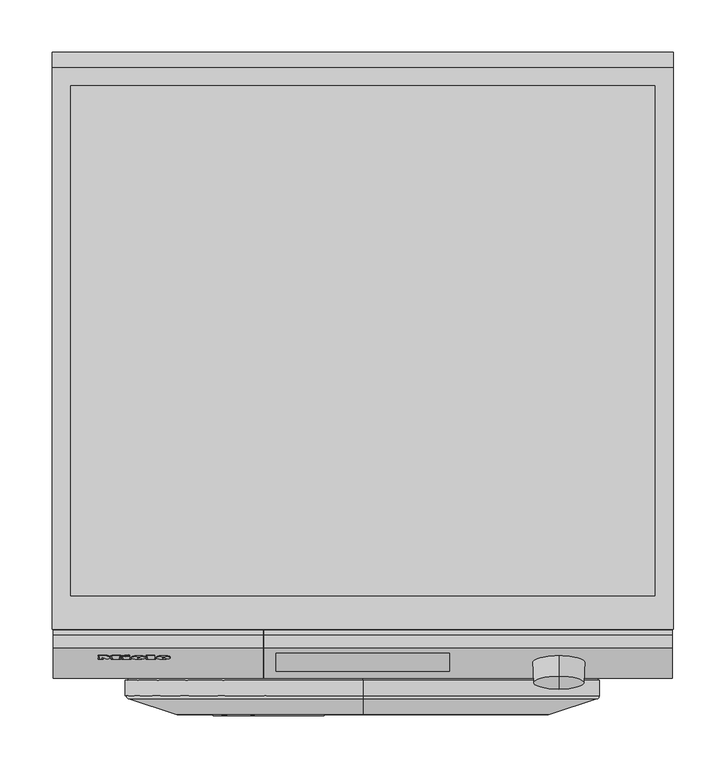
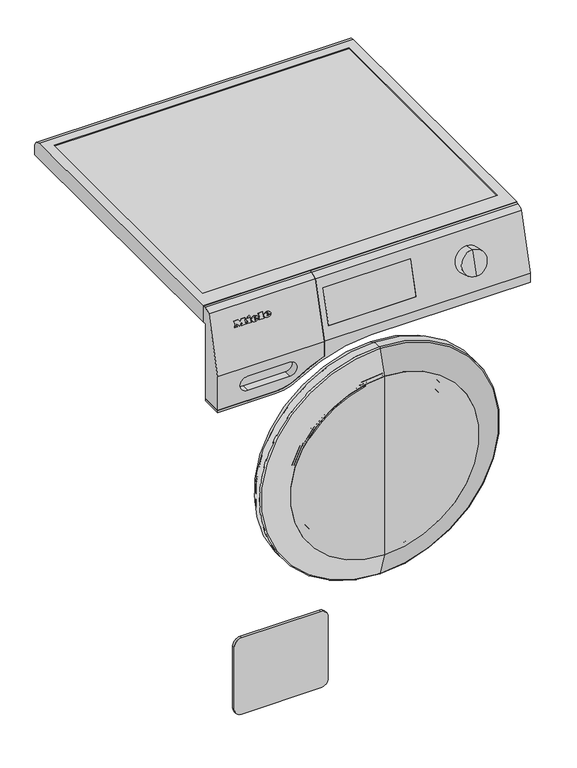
"""IFC4 building model written with IfcOpenShell, lengths in millimetres: proxy geometry, 12424710_NL_WEB395WPS_LW : 11EB3953_NL_12424710_WEB395WPS_LW."""

from ifc_helpers import new_model, si_unit, point, frame, frame_2d, origin, place, context, project, spatial, polyline, circle_curve, ellipse_curve, trimmed, segment, composite_curve, outline, extrude, source, transform, mapped, element, save
from ifc_brep_helpers import plane_surface, cylinder_surface, revolved_surface, extruded_surface, advanced_brep


def specialty_equipment_27e1f234(model_context):
    return source(origin(), model_context, "Body", "SolidModel", [
        extrude(outline(polyline([(0.0, 0.0), (0.0, -1.8582), (-7.9458, -1.8582), (-11.286, 2.4168), (-14.6148, -1.8582), (-21.5574, -1.8582), (-21.5574, 0.0), (-20.1096, 0.0), (-20.1096, 7.6266), (-21.5574, 7.6266), (-21.5574, 9.5418), (-12.4602, 9.5418), (-12.4602, 7.6266), (-13.8624, 7.6266), (-13.8624, 2.6015777), (-8.7438, 9.5418), (-3.648, 2.7988753), (-3.648, 7.6266), (-5.016, 7.6266), (-5.016, 9.5418), (0.0, 9.5418), (0.0, 7.6266), (-1.3794, 7.6266), (-1.3794, 0.0), (0.0, 0.0)])), frame((-254.0, -578.2806922, 817.2814843), z_axis=(0.0, -0.9659258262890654, 0.2588190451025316), x_axis=(-1.0, 0.0, 0.0)), (0.0, 0.0, 1.0), 1.0),
        extrude(outline(polyline([(0.0, 0.0), (-0.0155448, -4.2740444), (-2.0506341, -4.2637237), (-2.0399312, 0.0), (0.0, 0.0)])), frame((-228.464, -577.9348294, 818.5722618), z_axis=(0.0, -0.9659258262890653, 0.2588190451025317), x_axis=(-0.4247202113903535, 0.23431526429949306, 0.8744764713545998)), (0.0, 0.0, 1.0), 1.0),
        extrude(outline(polyline([(-0.7030818, 3.4401063), (-3.9616202, -3.5057256), (-10.0405132, -0.6538993), (-10.6021632, -1.8511006), (-12.336041, -1.0376764), (-8.5158526, 7.1053568), (-6.7819748, 6.2919326), (-7.3581502, 5.0637692), (-3.1266627, 3.0786269), (-2.5504873, 4.3067903), (-0.7030818, 3.4401063)])), frame((-228.464, -577.9348294, 818.5722618), z_axis=(0.0, -0.9659258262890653, 0.2588190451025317), x_axis=(-0.4247202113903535, 0.23431526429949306, 0.8744764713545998)), (0.0, 0.0, 1.0), 1.0),
        extrude(outline(polyline([(0.0, 0.0), (0.0, -1.8582), (-7.8432, -1.8582), (-7.8432, 7.6266), (-9.2454, 7.6266), (-9.2454, 9.5418), (0.0, 9.5418), (0.0, 7.6266), (-1.368, 7.6266), (-1.368, 0.0), (0.0, 0.0)])), frame((-207.7388, -578.2806922, 817.2814843), z_axis=(0.0, -0.9659258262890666, 0.2588190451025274), x_axis=(-1.0, 0.0, 0.0)), (0.0, 0.0, 1.0), 1.0),
        advanced_brep(
        [(-216.0038, -581.029736, 810.8856165), (-216.0038, -580.7317318, 811.9977835), (-208.3772, -580.7317318, 811.9977835), (-221.6468, -580.7317318, 811.9977835), (-218.5118, -581.7290133, 808.2758781), (-208.571, -581.029736, 810.8856165), (-212.0138, -581.029736, 810.8856165), (-214.727, -581.3601962, 809.6523224), (-216.0038, -580.354063, 813.4072624), (-216.0038, -580.0324545, 814.6075219), (-214.0544, -580.0324545, 814.6075219), (-214.0544, -580.354063, 813.4072624), (-216.0038, -580.0638102, 810.6267974), (-214.727, -580.3942704, 809.3935033), (-212.0138, -580.0638102, 810.6267974), (-208.571, -580.0638102, 810.6267974), (-218.5118, -580.7630875, 808.017059), (-221.6468, -579.765806, 811.7389644), (-208.3772, -579.765806, 811.7389644), (-216.0038, -579.765806, 811.7389644), (-216.0038, -579.3881372, 813.1484434), (-214.0544, -579.3881372, 813.1484434), (-214.0544, -579.0665287, 814.3487028), (-216.0038, -579.0665287, 814.3487028)],
        [
            (0, 1),
            (1, 2),
            (2, 3, ellipse_curve(frame((-215.012, -580.7317318, 811.9977835), z_axis=(0.0, -0.9659258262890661, 0.2588190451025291), x_axis=(-1.0, 0.0, 0.0)), 6.6348, 5.4834)),
            (3, 4, circle_curve(frame((-217.2349378, -580.6314135, 812.3721763), z_axis=(0.0, -0.9659258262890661, 0.2588190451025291), x_axis=(0.0, -0.2588190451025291, -0.9659258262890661)), 4.4288556)),
            (4, 5, circle_curve(frame((-215.1448192, -579.8524717, 815.2792267), z_axis=(0.0, -0.9659258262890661, 0.2588190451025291), x_axis=(0.0, -0.2588190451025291, -0.9659258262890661)), 7.9940516)),
            (5, 6),
            (6, 7, circle_curve(frame((-214.1697412, -580.7553361, 811.909691), z_axis=(0.0, 0.9659258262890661, -0.2588190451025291), x_axis=(0.0, -0.2588190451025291, -0.9659258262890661)), 2.4025208)),
            (7, 0, circle_curve(frame((-214.727, -581.029736, 810.8856165), z_axis=(0.0, 0.9659258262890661, -0.2588190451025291), x_axis=(0.0, -0.2588190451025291, -0.9659258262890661)), 1.2768)),
            (8, 9),
            (9, 10, circle_curve(frame((-215.0291, -580.0324545, 814.6075219), z_axis=(0.0, 0.9659258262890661, -0.2588190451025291), x_axis=(0.0, -0.2588190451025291, -0.9659258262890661)), 0.9747)),
            (10, 11),
            (11, 8),
            (12, 13, circle_curve(frame((-214.727, -580.0638102, 810.6267974), z_axis=(0.0, -0.9659258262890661, 0.2588190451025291), x_axis=(0.0, -0.2588190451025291, -0.9659258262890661)), 1.2768)),
            (13, 14, circle_curve(frame((-214.1697412, -579.7894103, 811.650872), z_axis=(0.0, -0.9659258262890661, 0.2588190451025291), x_axis=(0.0, -0.2588190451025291, -0.9659258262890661)), 2.4025208)),
            (14, 15),
            (15, 16, circle_curve(frame((-215.1448192, -578.8865459, 815.0204076), z_axis=(0.0, 0.9659258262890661, -0.2588190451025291), x_axis=(0.0, -0.2588190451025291, -0.9659258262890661)), 7.9940516)),
            (16, 17, circle_curve(frame((-217.2349378, -579.6654877, 812.1133573), z_axis=(0.0, 0.9659258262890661, -0.2588190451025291), x_axis=(0.0, -0.2588190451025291, -0.9659258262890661)), 4.4288556)),
            (17, 18, ellipse_curve(frame((-215.012, -579.765806, 811.7389644), z_axis=(0.0, 0.9659258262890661, -0.2588190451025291), x_axis=(-1.0, 0.0, 0.0)), 6.6348, 5.4834)),
            (18, 19),
            (19, 12),
            (20, 21),
            (21, 22),
            (22, 23, circle_curve(frame((-215.0291, -579.0665287, 814.3487028), z_axis=(0.0, -0.9659258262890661, 0.2588190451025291), x_axis=(0.0, -0.2588190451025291, -0.9659258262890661)), 0.9747)),
            (23, 20),
            (0, 12),
            (19, 1),
            (18, 2),
            (5, 15),
            (14, 6),
            (17, 3),
            (13, 7),
            (16, 4),
            (8, 20),
            (23, 9),
            (22, 10),
            (21, 11),
        ],
        [
            plane_surface(frame((-216.0038, -580.7317318, 811.9977835), z_axis=(0.0, -0.9659258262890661, 0.2588190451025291), x_axis=(0.0, 0.2588190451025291, 0.9659258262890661))),
            plane_surface(frame((-216.0038, -579.765806, 811.7389644), z_axis=(0.0, 0.9659258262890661, -0.2588190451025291), x_axis=(0.0, -0.2588190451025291, -0.9659258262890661))),
            plane_surface(frame((-216.0038, -581.029736, 810.8856165), z_axis=(1.0, 0.0, 0.0), x_axis=(0.0, 0.9659258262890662, -0.25881904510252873))),
            plane_surface(frame((-216.0038, -580.7317318, 811.9977835), z_axis=(0.0, -0.25881904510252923, -0.9659258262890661), x_axis=(0.0, 0.9659258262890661, -0.25881904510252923))),
            plane_surface(frame((-208.571, -581.029736, 810.8856165), z_axis=(0.0, 0.25881904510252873, 0.9659258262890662), x_axis=(0.0, 0.9659258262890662, -0.25881904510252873))),
            extruded_surface(trimmed(ellipse_curve(frame((-215.012, -578.7998801, 811.4801454), z_axis=(0.0, -0.9659258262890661, 0.2588190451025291), x_axis=(-1.0, 0.0, 0.0)), 6.6348, 5.4834), [point((-208.3772, -578.7998801, 811.4801454))], [point((-221.6468, -578.7998801, 811.4801454))], True, "CARTESIAN"), (0.0, -0.965925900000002, 0.2588190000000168), 1.0000000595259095),
            revolved_surface(polyline([(-214.1697412, -580.4112283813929, 809.3302150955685), (-214.1697412, -581.3771542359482, 809.589034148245)]), (-214.1697412, -579.7894103, 811.650872), (0.0, 0.9659258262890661, -0.2588190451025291)),
            revolved_surface(polyline([(-214.727, -580.3942703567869, 809.393503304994), (-214.727, -581.3601962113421, 809.6523223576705)]), (-214.727, -580.0638102, 810.6267974), (0.0, 0.9659258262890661, -0.2588190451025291)),
            cylinder_surface(frame((-217.2349378, -579.6654877, 812.1133573), z_axis=(0.0, -0.9659258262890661, 0.2588190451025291), x_axis=(0.0, -0.2588190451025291, -0.9659258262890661)), 4.4288556),
            cylinder_surface(frame((-215.1448192, -578.8865459, 815.0204076), z_axis=(0.0, -0.9659258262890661, 0.2588190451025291), x_axis=(0.0, -0.2588190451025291, -0.9659258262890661)), 7.9940516),
            plane_surface(frame((-216.0038, -580.354063, 813.4072624), z_axis=(1.0, 0.0, 0.0), x_axis=(0.0, 0.9659258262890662, -0.25881904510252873))),
            revolved_surface(polyline([(-215.0291, -579.3187996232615, 813.407214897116), (-215.0291, -580.2847254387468, 813.6660339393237)]), (-215.0291, -579.0665287, 814.3487028), (0.0, 0.9659258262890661, -0.2588190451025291)),
            plane_surface(frame((-214.0544, -580.0324545, 814.6075219), z_axis=(-1.0, 0.0, 0.0), x_axis=(0.0, 0.9659258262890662, -0.25881904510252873))),
            plane_surface(frame((-214.0544, -580.354063, 813.4072624), z_axis=(0.0, 0.25881904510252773, 0.9659258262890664), x_axis=(0.0, 0.9659258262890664, -0.25881904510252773))),
        ],
        [
            (0, [[1, 2, 3, 4, 5, 6, 7, 8], [9, 10, 11, 12]]),
            (1, [[13, 14, 15, 16, 17, 18, 19, 20], [21, 22, 23, 24]]),
            (2, [[-1, 25, -20, 26]]),
            (3, [[-2, -26, -19, 27]]),
            (4, [[-6, 28, -15, 29]]),
            (5, [[-3, -27, -18, 30]]),
            (6, [[-7, -29, -14, 31]]),
            (7, [[-8, -31, -13, -25]]),
            (8, [[-4, -30, -17, 32]]),
            (9, [[-5, -32, -16, -28]]),
            (10, [[-9, 33, -24, 34]]),
            (11, [[-10, -34, -23, 35]]),
            (12, [[-11, -35, -22, 36]]),
            (13, [[-12, -36, -21, -33]]),
        ],
    ),
        advanced_brep(
        [(-192.212, -581.029736, 810.8856165), (-192.212, -580.7317318, 811.9977835), (-184.5854, -580.7317318, 811.9977835), (-197.855, -580.7317318, 811.9977835), (-194.72, -581.7290133, 808.2758781), (-184.7792, -581.029736, 810.8856165), (-188.222, -581.029736, 810.8856165), (-190.9352, -581.3601962, 809.6523224), (-192.212, -580.354063, 813.4072624), (-192.212, -580.0324545, 814.6075219), (-190.2626, -580.0324545, 814.6075219), (-190.2626, -580.354063, 813.4072624), (-192.212, -580.0638102, 810.6267974), (-190.9352, -580.3942704, 809.3935033), (-188.222, -580.0638102, 810.6267974), (-184.7792, -580.0638102, 810.6267974), (-194.72, -580.7630875, 808.017059), (-197.855, -579.765806, 811.7389644), (-184.5854, -579.765806, 811.7389644), (-192.212, -579.765806, 811.7389644), (-192.212, -579.3881372, 813.1484434), (-190.2626, -579.3881372, 813.1484434), (-190.2626, -579.0665287, 814.3487028), (-192.212, -579.0665287, 814.3487028)],
        [
            (0, 1),
            (1, 2),
            (2, 3, ellipse_curve(frame((-191.2202, -580.7317318, 811.9977835), z_axis=(0.0, -0.965925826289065, 0.25881904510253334), x_axis=(-1.0, 0.0, 0.0)), 6.6348, 5.4834)),
            (3, 4, circle_curve(frame((-193.4431378, -580.6314135, 812.3721763), z_axis=(0.0, -0.9659258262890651, 0.25881904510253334), x_axis=(0.0, -0.2588190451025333, -0.9659258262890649)), 4.4288556)),
            (4, 5, circle_curve(frame((-191.3530192, -579.8524717, 815.2792267), z_axis=(0.0, -0.9659258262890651, 0.25881904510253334), x_axis=(0.0, -0.2588190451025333, -0.9659258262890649)), 7.9940516)),
            (5, 6),
            (6, 7, circle_curve(frame((-190.3779412, -580.7553361, 811.909691), z_axis=(0.0, 0.9659258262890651, -0.25881904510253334), x_axis=(0.0, -0.2588190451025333, -0.9659258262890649)), 2.4025208)),
            (7, 0, circle_curve(frame((-190.9352, -581.029736, 810.8856165), z_axis=(0.0, 0.9659258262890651, -0.25881904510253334), x_axis=(0.0, -0.2588190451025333, -0.9659258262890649)), 1.2768)),
            (8, 9),
            (9, 10, circle_curve(frame((-191.2373, -580.0324545, 814.6075219), z_axis=(0.0, 0.9659258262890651, -0.25881904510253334), x_axis=(0.0, -0.2588190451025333, -0.9659258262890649)), 0.9747)),
            (10, 11),
            (11, 8),
            (12, 13, circle_curve(frame((-190.9352, -580.0638102, 810.6267974), z_axis=(0.0, -0.9659258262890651, 0.25881904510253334), x_axis=(0.0, -0.2588190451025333, -0.9659258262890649)), 1.2768)),
            (13, 14, circle_curve(frame((-190.3779412, -579.7894103, 811.650872), z_axis=(0.0, -0.9659258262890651, 0.25881904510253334), x_axis=(0.0, -0.2588190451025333, -0.9659258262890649)), 2.4025208)),
            (14, 15),
            (15, 16, circle_curve(frame((-191.3530192, -578.8865459, 815.0204076), z_axis=(0.0, 0.9659258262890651, -0.25881904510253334), x_axis=(0.0, -0.2588190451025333, -0.9659258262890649)), 7.9940516)),
            (16, 17, circle_curve(frame((-193.4431378, -579.6654877, 812.1133573), z_axis=(0.0, 0.9659258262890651, -0.25881904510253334), x_axis=(0.0, -0.2588190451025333, -0.9659258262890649)), 4.4288556)),
            (17, 18, ellipse_curve(frame((-191.2202, -579.765806, 811.7389644), z_axis=(0.0, 0.965925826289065, -0.25881904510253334), x_axis=(-1.0, 0.0, 0.0)), 6.6348, 5.4834)),
            (18, 19),
            (19, 12),
            (20, 21),
            (21, 22),
            (22, 23, circle_curve(frame((-191.2373, -579.0665287, 814.3487028), z_axis=(0.0, -0.9659258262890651, 0.25881904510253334), x_axis=(0.0, -0.2588190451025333, -0.9659258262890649)), 0.9747)),
            (23, 20),
            (0, 12),
            (19, 1),
            (18, 2),
            (5, 15),
            (14, 6),
            (17, 3),
            (13, 7),
            (16, 4),
            (8, 20),
            (23, 9),
            (22, 10),
            (21, 11),
        ],
        [
            plane_surface(frame((-192.212, -580.7317318, 811.9977835), z_axis=(0.0, -0.965925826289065, 0.25881904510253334), x_axis=(0.0, 0.25881904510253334, 0.965925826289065))),
            plane_surface(frame((-192.212, -579.765806, 811.7389644), z_axis=(0.0, 0.965925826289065, -0.25881904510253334), x_axis=(0.0, -0.25881904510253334, -0.965925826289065))),
            plane_surface(frame((-192.212, -581.029736, 810.8856165), z_axis=(1.0, 0.0, 0.0), x_axis=(0.0, 0.9659258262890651, -0.2588190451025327))),
            plane_surface(frame((-192.212, -580.7317318, 811.9977835), z_axis=(0.0, -0.25881904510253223, -0.9659258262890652), x_axis=(0.0, 0.9659258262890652, -0.25881904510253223))),
            plane_surface(frame((-184.7792, -581.029736, 810.8856165), z_axis=(0.0, 0.2588190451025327, 0.9659258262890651), x_axis=(0.0, 0.9659258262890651, -0.2588190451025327))),
            extruded_surface(trimmed(ellipse_curve(frame((-191.2202, -578.7998801, 811.4801454), z_axis=(0.0, -0.965925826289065, 0.25881904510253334), x_axis=(-1.0, 0.0, 0.0)), 6.6348, 5.4834), [point((-184.5854, -578.7998801, 811.4801454))], [point((-197.855, -578.7998801, 811.4801454))], True, "CARTESIAN"), (0.0, -0.965925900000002, 0.2588190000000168), 1.0000000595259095),
            revolved_surface(polyline([(-190.3779412, -580.4112283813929, 809.3302150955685), (-190.3779412, -581.3771542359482, 809.589034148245)]), (-190.3779412, -579.7894103, 811.650872), (0.0, 0.9659258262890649, -0.2588190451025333)),
            revolved_surface(polyline([(-190.9352, -580.3942703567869, 809.393503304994), (-190.9352, -581.3601962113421, 809.6523223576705)]), (-190.9352, -580.0638102, 810.6267974), (0.0, 0.9659258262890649, -0.2588190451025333)),
            cylinder_surface(frame((-193.4431378, -579.6654877, 812.1133573), z_axis=(0.0, -0.9659258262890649, 0.2588190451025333), x_axis=(0.0, -0.2588190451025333, -0.9659258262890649)), 4.4288556),
            cylinder_surface(frame((-191.3530192, -578.8865459, 815.0204076), z_axis=(0.0, -0.9659258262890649, 0.2588190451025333), x_axis=(0.0, -0.2588190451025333, -0.9659258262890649)), 7.9940516),
            plane_surface(frame((-192.212, -580.354063, 813.4072624), z_axis=(1.0, 0.0, 0.0), x_axis=(0.0, 0.9659258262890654, -0.25881904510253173))),
            revolved_surface(polyline([(-191.2373, -579.3187996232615, 813.407214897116), (-191.2373, -580.2847254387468, 813.6660339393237)]), (-191.2373, -579.0665287, 814.3487028), (0.0, 0.9659258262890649, -0.2588190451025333)),
            plane_surface(frame((-190.2626, -580.0324545, 814.6075219), z_axis=(-1.0, 0.0, 0.0), x_axis=(0.0, 0.9659258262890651, -0.2588190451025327))),
            plane_surface(frame((-190.2626, -580.354063, 813.4072624), z_axis=(0.0, 0.2588190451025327, 0.9659258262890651), x_axis=(0.0, 0.9659258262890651, -0.2588190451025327))),
        ],
        [
            (0, [[1, 2, 3, 4, 5, 6, 7, 8], [9, 10, 11, 12]]),
            (1, [[13, 14, 15, 16, 17, 18, 19, 20], [21, 22, 23, 24]]),
            (2, [[-1, 25, -20, 26]]),
            (3, [[-2, -26, -19, 27]]),
            (4, [[-6, 28, -15, 29]]),
            (5, [[-3, -27, -18, 30]]),
            (6, [[-7, -29, -14, 31]]),
            (7, [[-8, -31, -13, -25]]),
            (8, [[-4, -30, -17, 32]]),
            (9, [[-5, -32, -16, -28]]),
            (10, [[-9, 33, -24, 34]]),
            (11, [[-10, -34, -23, 35]]),
            (12, [[-11, -35, -22, 36]]),
            (13, [[-12, -36, -21, -33]]),
        ],
    ),
        extrude(outline(composite_curve([segment(trimmed(circle_curve(frame_2d((475.0, 0.0)), 179.0077488), [point((650.0572384, -37.3996979))], [point((581.8669772, -143.6078804))], False, "CARTESIAN"), True, "CONTINUOUS"), segment(polyline([(581.8669772, -143.6078804), (580.6729844, -142.0033925)]), True, "CONTINUOUS"), segment(trimmed(circle_curve(frame_2d((475.0, 0.0)), 177.0077488), [point((580.6729844, -142.0033925))], [point((648.1013763, -36.9818423))], True, "CARTESIAN"), True, "CONTINUOUS"), segment(polyline([(648.1013763, -36.9818423), (650.0572384, -37.3996979)]), True, "CONTINUOUS")], self_intersect=False)), frame((0.0, -636.0, 0.0), z_axis=(0.0, 1.0, 0.0), x_axis=(0.0, 0.0, 1.0)), (0.0, 0.0, 1.0), 1.0),
        advanced_brep(
        [(0.0, -610.8709778, 313.0), (0.0, -610.8709778, 637.0), (0.0, -592.0, 637.0), (0.0, -592.0, 313.0), (0.0, -628.93239, 652.7005461), (0.0, -628.93239, 297.2994539), (0.0, -630.9005671, 650.4364173), (0.0, -630.9005671, 299.5635827), (0.0, -592.0, 326.0), (0.0, -592.0, 624.0), (0.0, -589.0, 326.0), (0.0, -589.0, 624.0), (0.0, -589.0, 475.0), (0.0, -635.0, 296.0), (0.0, -635.0, 654.0), (0.0, -635.0, 475.0)],
        [
            (0, 1, circle_curve(frame((0.0, -610.8709778, 475.0), z_axis=(0.0, 1.0, 0.0), x_axis=(0.0, 0.0, 1.0)), 162.0)),
            (1, 2),
            (2, 3, circle_curve(frame((0.0, -592.0, 475.0), z_axis=(0.0, -1.0, 0.0), x_axis=(0.0, 0.0, 1.0)), 162.0)),
            (3, 0),
            (4, 5, circle_curve(frame((0.0, -628.93239, 475.0), z_axis=(0.0, 1.0, 0.0), x_axis=(0.0, 0.0, 1.0)), 177.7005461)),
            (5, 0),
            (0, 1, circle_curve(frame((0.0, -610.8709778, 475.0), z_axis=(0.0, -1.0, 0.0), x_axis=(0.0, 0.0, 1.0)), 162.0)),
            (1, 4),
            (6, 7, circle_curve(frame((0.0, -630.9005671, 475.0), z_axis=(0.0, 1.0, 0.0), x_axis=(0.0, 0.0, 1.0)), 175.4364173)),
            (7, 5),
            (4, 6),
            (2, 3, circle_curve(frame((0.0, -592.0, 475.0), z_axis=(0.0, 1.0, 0.0), x_axis=(0.0, 0.0, 1.0)), 162.0)),
            (3, 8),
            (8, 9, circle_curve(frame((0.0, -592.0, 475.0), z_axis=(0.0, -1.0, 0.0), x_axis=(0.0, 0.0, 1.0)), 149.0)),
            (9, 2),
            (10, 11, circle_curve(frame((0.0, -589.0, 475.0), z_axis=(0.0, 1.0, 0.0), x_axis=(0.0, 0.0, 1.0)), 149.0)),
            (11, 12),
            (12, 10),
            (8, 9, circle_curve(frame((0.0, -592.0, 475.0), z_axis=(0.0, 1.0, 0.0), x_axis=(0.0, 0.0, 1.0)), 149.0)),
            (9, 11),
            (10, 8),
            (13, 14, circle_curve(frame((0.0, -635.0, 475.0), z_axis=(0.0, 1.0, 0.0), x_axis=(0.0, 0.0, 1.0)), 179.0)),
            (14, 6),
            (6, 7, circle_curve(frame((0.0, -630.9005671, 475.0), z_axis=(0.0, -1.0, 0.0), x_axis=(0.0, 0.0, 1.0)), 175.4364173)),
            (7, 13),
            (14, 13, circle_curve(frame((0.0, -635.0, 475.0), z_axis=(0.0, 1.0, 0.0), x_axis=(0.0, 0.0, 1.0)), 179.0)),
            (15, 14),
            (13, 15),
            (11, 10, circle_curve(frame((0.0, -589.0, 475.0), z_axis=(0.0, 1.0, 0.0), x_axis=(0.0, 0.0, 1.0)), 149.0)),
            (5, 4, circle_curve(frame((0.0, -628.93239, 475.0), z_axis=(0.0, 1.0, 0.0), x_axis=(0.0, 0.0, 1.0)), 177.7005461)),
        ],
        [
            cylinder_surface(frame((0.0, -2342.7556811, 475.0), z_axis=(0.0, -1.0, 0.0), x_axis=(0.0, 0.0, 1.0)), 162.0),
            revolved_surface(polyline([(0.0, -610.8709778, 637.0), (0.0, -628.93239, 652.7005461)]), (0.0, -2342.7556811, 475.0), (0.0, -1.0, 0.0)),
            revolved_surface(polyline([(0.0, -628.93239, 652.7005461), (0.0, -630.9005671, 650.4364173)]), (0.0, -2342.7556811, 475.0), (0.0, -1.0, 0.0)),
            plane_surface(frame((0.0, -592.0, 475.0), z_axis=(0.0, 1.0, 0.0), x_axis=(0.0, 0.0, 1.0))),
            plane_surface(frame((0.0, -589.0, 475.0), z_axis=(0.0, 1.0, 0.0), x_axis=(0.0, 0.0, 1.0))),
            cylinder_surface(frame((0.0, -2342.7556811, 475.0), z_axis=(0.0, -1.0, 0.0), x_axis=(0.0, 0.0, 1.0)), 149.0),
            revolved_surface(polyline([(0.0, -630.9005671, 650.4364173), (0.0, -635.0, 654.0)]), (0.0, -2342.7556811, 475.0), (0.0, -1.0, 0.0)),
            plane_surface(frame((0.0, -635.0, 475.0), z_axis=(0.0, -1.0, 0.0), x_axis=(0.0, 0.0, 1.0))),
        ],
        [
            (0, [[1, 2, 3, 4]]),
            (1, [[5, 6, 7, 8]]),
            (2, [[9, 10, -5, 11]]),
            (3, [[12, 13, 14, 15]]),
            (4, [[16, 17, 18]]),
            (5, [[19, 20, -16, 21]]),
            (6, [[22, 23, 24, 25]]),
            (6, [[26, -25, -9, -23]]),
            (7, [[27, -22, 28]]),
            (7, [[-28, -26, -27]]),
            (4, [[29, -18, -17]]),
            (5, [[-14, -21, -29, -20]]),
            (3, [[-3, -15, -19, -13]]),
            (0, [[-7, -4, -12, -2]]),
            (1, [[30, -8, -1, -6]]),
            (2, [[-24, -11, -30, -10]]),
        ],
    ),
        advanced_brep(
        [(0.0, -602.0, 313.0), (0.0, -602.0, 637.0), (0.0, -602.0, 702.0), (0.0, -602.0, 248.0), (0.0, -592.0, 326.0), (0.0, -592.0, 624.0), (0.0, -592.0, 637.0), (0.0, -592.0, 313.0), (0.0, -589.0, 326.0), (0.0, -589.0, 624.0), (0.0, -589.0, 254.0), (0.0, -589.0, 696.0)],
        [
            (0, 1, circle_curve(frame((0.0, -602.0, 475.0), z_axis=(0.0, 1.0, 0.0), x_axis=(0.0, 0.0, 1.0)), 162.0)),
            (1, 2),
            (2, 3, circle_curve(frame((0.0, -602.0, 475.0), z_axis=(0.0, -1.0, 0.0), x_axis=(0.0, 0.0, 1.0)), 227.0)),
            (3, 0),
            (4, 5, circle_curve(frame((0.0, -592.0, 475.0), z_axis=(0.0, 1.0, 0.0), x_axis=(0.0, 0.0, 1.0)), 149.0)),
            (5, 6),
            (6, 7, circle_curve(frame((0.0, -592.0, 475.0), z_axis=(0.0, -1.0, 0.0), x_axis=(0.0, 0.0, 1.0)), 162.0)),
            (7, 4),
            (5, 4, circle_curve(frame((0.0, -592.0, 475.0), z_axis=(0.0, 1.0, 0.0), x_axis=(0.0, 0.0, 1.0)), 149.0)),
            (7, 6, circle_curve(frame((0.0, -592.0, 475.0), z_axis=(0.0, -1.0, 0.0), x_axis=(0.0, 0.0, 1.0)), 162.0)),
            (8, 9, circle_curve(frame((0.0, -589.0, 475.0), z_axis=(0.0, 1.0, 0.0), x_axis=(0.0, 0.0, 1.0)), 149.0)),
            (9, 5),
            (4, 8),
            (2, 3, circle_curve(frame((0.0, -602.0, 475.0), z_axis=(0.0, 1.0, 0.0), x_axis=(0.0, 0.0, 1.0)), 227.0)),
            (3, 10),
            (10, 11, circle_curve(frame((0.0, -589.0, 475.0), z_axis=(0.0, -1.0, 0.0), x_axis=(0.0, 0.0, 1.0)), 221.0)),
            (11, 2),
            (10, 11, circle_curve(frame((0.0, -589.0, 475.0), z_axis=(0.0, 1.0, 0.0), x_axis=(0.0, 0.0, 1.0)), 221.0)),
            (11, 9),
            (8, 10),
            (8, 9, circle_curve(frame((0.0, -589.0, 475.0), z_axis=(0.0, -1.0, 0.0), x_axis=(0.0, 0.0, 1.0)), 149.0)),
            (1, 0, circle_curve(frame((0.0, -602.0, 475.0), z_axis=(0.0, 1.0, 0.0), x_axis=(0.0, 0.0, 1.0)), 162.0)),
            (6, 1),
            (0, 7),
        ],
        [
            plane_surface(frame((0.0, -602.0, 475.0), z_axis=(0.0, -1.0, 0.0), x_axis=(0.0, 0.0, 1.0))),
            plane_surface(frame((0.0, -592.0, 475.0), z_axis=(0.0, -1.0, 0.0), x_axis=(0.0, 0.0, 1.0))),
            revolved_surface(polyline([(0.0, -592.0, 624.0), (0.0, -589.0, 624.0)]), (0.0, -2342.7556811, 475.0), (0.0, -1.0, 0.0)),
            revolved_surface(polyline([(0.0, -589.0, 696.0), (0.0, -602.0, 702.0)]), (0.0, -2342.7556811, 475.0), (0.0, -1.0, 0.0)),
            plane_surface(frame((0.0, -589.0, 475.0), z_axis=(0.0, 1.0, 0.0), x_axis=(0.0, 0.0, 1.0))),
            revolved_surface(polyline([(0.0, -602.0, 637.0), (0.0, -592.0, 637.0)]), (0.0, -2342.7556811, 475.0), (0.0, -1.0, 0.0)),
        ],
        [
            (0, [[1, 2, 3, 4]]),
            (1, [[5, 6, 7, 8]]),
            (1, [[9, -8, 10, -6]]),
            (2, [[11, 12, -5, 13]]),
            (3, [[14, 15, 16, 17]]),
            (4, [[18, 19, -11, 20]]),
            (4, [[-16, -20, 21, -19]]),
            (3, [[-3, -17, -18, -15]]),
            (0, [[22, -4, -14, -2]]),
            (5, [[-7, 23, -1, 24]]),
            (5, [[-10, -24, -22, -23]]),
            (2, [[-21, -13, -9, -12]]),
        ],
    ),
        advanced_brep(
        [(0.0, -602.0, 313.0), (0.0, -602.0, 637.0), (0.0, -610.8709778, 637.0), (0.0, -610.8709778, 313.0), (0.0, -602.0, 310.0), (0.0, -602.0, 640.0), (0.0, -609.7493238, 310.0), (0.0, -609.7493238, 640.0), (0.0, -628.93239, 297.2994539), (0.0, -628.93239, 652.7005461), (0.0, -626.9642129, 654.9646748), (0.0, -626.9642129, 295.0353252)],
        [
            (0, 1, circle_curve(frame((0.0, -602.0, 475.0), z_axis=(0.0, 1.0, 0.0), x_axis=(0.0, 0.0, 1.0)), 162.0)),
            (1, 2),
            (2, 3, circle_curve(frame((0.0, -610.8709778, 475.0), z_axis=(0.0, -1.0, 0.0), x_axis=(0.0, 0.0, 1.0)), 162.0)),
            (3, 0),
            (4, 5, circle_curve(frame((0.0, -602.0, 475.0), z_axis=(0.0, 1.0, 0.0), x_axis=(0.0, 0.0, 1.0)), 165.0)),
            (5, 1),
            (0, 4),
            (6, 7, circle_curve(frame((0.0, -609.7493238, 475.0), z_axis=(0.0, 1.0, 0.0), x_axis=(0.0, 0.0, 1.0)), 165.0)),
            (7, 5),
            (4, 6),
            (2, 3, circle_curve(frame((0.0, -610.8709778, 475.0), z_axis=(0.0, 1.0, 0.0), x_axis=(0.0, 0.0, 1.0)), 162.0)),
            (3, 8),
            (8, 9, circle_curve(frame((0.0, -628.93239, 475.0), z_axis=(0.0, -1.0, 0.0), x_axis=(0.0, 0.0, 1.0)), 177.7005461)),
            (9, 2),
            (8, 9, circle_curve(frame((0.0, -628.93239, 475.0), z_axis=(0.0, 1.0, 0.0), x_axis=(0.0, 0.0, 1.0)), 177.7005461)),
            (9, 10),
            (10, 11, circle_curve(frame((0.0, -626.9642129, 475.0), z_axis=(0.0, -1.0, 0.0), x_axis=(0.0, 0.0, 1.0)), 179.9646748)),
            (11, 8),
            (11, 10, circle_curve(frame((0.0, -626.9642129, 475.0), z_axis=(0.0, -1.0, 0.0), x_axis=(0.0, 0.0, 1.0)), 179.9646748)),
            (1, 0, circle_curve(frame((0.0, -602.0, 475.0), z_axis=(0.0, 1.0, 0.0), x_axis=(0.0, 0.0, 1.0)), 162.0)),
            (10, 7),
            (6, 11),
            (6, 7, circle_curve(frame((0.0, -609.7493238, 475.0), z_axis=(0.0, -1.0, 0.0), x_axis=(0.0, 0.0, 1.0)), 165.0)),
            (5, 4, circle_curve(frame((0.0, -602.0, 475.0), z_axis=(0.0, 1.0, 0.0), x_axis=(0.0, 0.0, 1.0)), 165.0)),
        ],
        [
            revolved_surface(polyline([(0.0, -610.8709778, 637.0), (0.0, -602.0, 637.0)]), (0.0, -2342.7556811, 475.0), (0.0, -1.0, 0.0)),
            plane_surface(frame((0.0, -602.0, 475.0), z_axis=(0.0, 1.0, 0.0), x_axis=(0.0, 0.0, 1.0))),
            cylinder_surface(frame((0.0, -2342.7556811, 475.0), z_axis=(0.0, -1.0, 0.0), x_axis=(0.0, 0.0, 1.0)), 165.0),
            revolved_surface(polyline([(0.0, -628.93239, 652.7005461), (0.0, -610.8709778, 637.0)]), (0.0, -2342.7556811, 475.0), (0.0, -1.0, 0.0)),
            revolved_surface(polyline([(0.0, -626.9642129, 654.9646748), (0.0, -628.93239, 652.7005461)]), (0.0, -2342.7556811, 475.0), (0.0, -1.0, 0.0)),
            revolved_surface(polyline([(0.0, -609.7493238, 640.0), (0.0, -626.9642129, 654.9646748)]), (0.0, -2342.7556811, 475.0), (0.0, -1.0, 0.0)),
        ],
        [
            (0, [[1, 2, 3, 4]]),
            (1, [[5, 6, -1, 7]]),
            (2, [[8, 9, -5, 10]]),
            (3, [[11, 12, 13, 14]]),
            (4, [[15, 16, 17, 18]]),
            (4, [[-13, -18, 19, -16]]),
            (3, [[-3, -14, -15, -12]]),
            (0, [[20, -4, -11, -2]]),
            (5, [[-17, 21, -8, 22]]),
            (5, [[-19, -22, 23, -21]]),
            (1, [[24, -7, -20, -6]]),
            (2, [[-23, -10, -24, -9]]),
        ],
    ),
        advanced_brep(
        [(0.0, -626.9642129, 295.0353252), (0.0, -626.9642129, 654.9646748), (0.0, -630.9005671, 650.4364173), (0.0, -630.9005671, 299.5635827), (0.0, -602.0, 247.0), (0.0, -602.0, 703.0), (0.0, -602.0, 640.0), (0.0, -602.0, 310.0), (0.0, -609.7493238, 640.0), (0.0, -609.7493238, 310.0), (0.0, -635.0, 296.0), (0.0, -635.0, 654.0), (0.0, -616.8993073, 247.0), (0.0, -616.8993073, 703.0), (0.0, -619.7524768, 249.072949), (0.0, -619.7524768, 700.927051)],
        [
            (0, 1, circle_curve(frame((0.0, -626.9642129, 475.0), z_axis=(0.0, 1.0, 0.0), x_axis=(0.0, 0.0, 1.0)), 179.9646748)),
            (1, 2),
            (2, 3, circle_curve(frame((0.0, -630.9005671, 475.0), z_axis=(0.0, -1.0, 0.0), x_axis=(0.0, 0.0, 1.0)), 175.4364173)),
            (3, 0),
            (4, 5, circle_curve(frame((0.0, -602.0, 475.0), z_axis=(0.0, 1.0, 0.0), x_axis=(0.0, 0.0, 1.0)), 228.0)),
            (5, 6),
            (6, 7, circle_curve(frame((0.0, -602.0, 475.0), z_axis=(0.0, -1.0, 0.0), x_axis=(0.0, 0.0, 1.0)), 165.0)),
            (7, 4),
            (6, 8),
            (8, 9, circle_curve(frame((0.0, -609.7493238, 475.0), z_axis=(0.0, -1.0, 0.0), x_axis=(0.0, 0.0, 1.0)), 165.0)),
            (9, 7),
            (2, 3, circle_curve(frame((0.0, -630.9005671, 475.0), z_axis=(0.0, 1.0, 0.0), x_axis=(0.0, 0.0, 1.0)), 175.4364173)),
            (3, 10),
            (10, 11, circle_curve(frame((0.0, -635.0, 475.0), z_axis=(0.0, -1.0, 0.0), x_axis=(0.0, 0.0, 1.0)), 179.0)),
            (11, 2),
            (12, 13, circle_curve(frame((0.0, -616.8993073, 475.0), z_axis=(0.0, 1.0, 0.0), x_axis=(0.0, 0.0, 1.0)), 228.0)),
            (13, 5),
            (4, 12),
            (13, 12, circle_curve(frame((0.0, -616.8993073, 475.0), z_axis=(0.0, 1.0, 0.0), x_axis=(0.0, 0.0, 1.0)), 228.0)),
            (4, 5, circle_curve(frame((0.0, -602.0, 475.0), z_axis=(0.0, -1.0, 0.0), x_axis=(0.0, 0.0, 1.0)), 228.0)),
            (14, 15, circle_curve(frame((0.0, -619.7524768, 475.0), z_axis=(0.0, 1.0, 0.0), x_axis=(0.0, 0.0, 1.0)), 225.927051)),
            (15, 13, circle_curve(frame((0.0, -616.8993073, 700.0), z_axis=(-1.0, 0.0, 0.0), x_axis=(0.0, 1.0, 0.0)), 3.0)),
            (12, 14, circle_curve(frame((0.0, -616.8993073, 250.0), z_axis=(-1.0, 0.0, 0.0), x_axis=(0.0, 1.0, 0.0)), 3.0)),
            (15, 14, circle_curve(frame((0.0, -619.7524768, 475.0), z_axis=(0.0, 1.0, 0.0), x_axis=(0.0, 0.0, 1.0)), 225.927051)),
            (10, 11, circle_curve(frame((0.0, -635.0, 475.0), z_axis=(0.0, 1.0, 0.0), x_axis=(0.0, 0.0, 1.0)), 179.0)),
            (11, 15),
            (14, 10),
            (1, 0, circle_curve(frame((0.0, -626.9642129, 475.0), z_axis=(0.0, 1.0, 0.0), x_axis=(0.0, 0.0, 1.0)), 179.9646748)),
            (8, 1),
            (0, 9),
            (8, 9, circle_curve(frame((0.0, -609.7493238, 475.0), z_axis=(0.0, 1.0, 0.0), x_axis=(0.0, 0.0, 1.0)), 165.0)),
            (7, 6, circle_curve(frame((0.0, -602.0, 475.0), z_axis=(0.0, -1.0, 0.0), x_axis=(0.0, 0.0, 1.0)), 165.0)),
        ],
        [
            revolved_surface(polyline([(0.0, -630.9005671, 650.4364173), (0.0, -626.9642129, 654.9646748)]), (0.0, -2342.7556811, 475.0), (0.0, -1.0, 0.0)),
            plane_surface(frame((0.0, -602.0, 475.0), z_axis=(0.0, 1.0, 0.0), x_axis=(0.0, 0.0, 1.0))),
            revolved_surface(polyline([(0.0, -609.7493238, 640.0), (0.0, -602.0, 640.0)]), (0.0, -2342.7556811, 475.0), (0.0, -1.0, 0.0)),
            revolved_surface(polyline([(0.0, -635.0, 654.0), (0.0, -630.9005671, 650.4364173)]), (0.0, -2342.7556811, 475.0), (0.0, -1.0, 0.0)),
            cylinder_surface(frame((0.0, -2342.7556811, 475.0), z_axis=(0.0, -1.0, 0.0), x_axis=(0.0, 0.0, 1.0)), 228.0),
            revolved_surface(trimmed(ellipse_curve(frame((0.0, -616.8993073, 700.0), z_axis=(1.0, 0.0, 0.0), x_axis=(0.0, 1.0, 0.0)), 3.0, 3.0), [point((0.0, -616.8993073, 703.0))], [point((0.0, -619.7524768, 700.927051))], True, "CARTESIAN"), (0.0, -2342.7556811, 475.0), (0.0, -1.0, 0.0)),
            revolved_surface(polyline([(0.0, -619.7524768, 700.927051), (0.0, -635.0, 654.0)]), (0.0, -2342.7556811, 475.0), (0.0, -1.0, 0.0)),
            revolved_surface(polyline([(0.0, -626.9642129, 654.9646748), (0.0, -609.7493238, 640.0)]), (0.0, -2342.7556811, 475.0), (0.0, -1.0, 0.0)),
        ],
        [
            (0, [[1, 2, 3, 4]]),
            (1, [[5, 6, 7, 8]]),
            (2, [[-7, 9, 10, 11]]),
            (3, [[12, 13, 14, 15]]),
            (4, [[16, 17, -5, 18]]),
            (4, [[19, -18, 20, -17]]),
            (5, [[21, 22, -16, 23]]),
            (5, [[24, -23, -19, -22]]),
            (6, [[25, 26, -21, 27]]),
            (6, [[-14, -27, -24, -26]]),
            (3, [[-3, -15, -25, -13]]),
            (0, [[28, -4, -12, -2]]),
            (7, [[-10, 29, -1, 30]]),
            (7, [[31, -30, -28, -29]]),
            (1, [[-20, -8, 32, -6]]),
            (2, [[-32, -11, -31, -9]]),
        ],
    ),
        advanced_brep(
        [(188.0, -610.51771, 774.0406758), (188.0, -598.119323, 820.312086), (188.0, -578.5295239, 816.1481457), (188.0, -591.4704761, 767.8518543), (188.0, -604.3185165, 797.1763809), (188.0, -585.0, 792.0)],
        [
            (0, 1, circle_curve(frame((188.0, -604.3185165, 797.1763809), z_axis=(0.0, 0.9659258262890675, -0.2588190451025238), x_axis=(0.0, 0.2588190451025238, 0.9659258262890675)), 23.9518444)),
            (1, 2),
            (2, 3, circle_curve(frame((188.0, -585.0, 792.0), z_axis=(0.0, -0.9659258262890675, 0.2588190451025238), x_axis=(0.0, 0.2588190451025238, 0.9659258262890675)), 25.0)),
            (3, 0),
            (1, 0, circle_curve(frame((188.0, -604.3185165, 797.1763809), z_axis=(0.0, 0.9659258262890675, -0.2588190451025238), x_axis=(0.0, 0.2588190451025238, 0.9659258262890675)), 23.9518444)),
            (3, 2, circle_curve(frame((188.0, -585.0, 792.0), z_axis=(0.0, -0.9659258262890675, 0.2588190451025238), x_axis=(0.0, 0.2588190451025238, 0.9659258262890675)), 25.0)),
            (4, 1),
            (0, 4),
            (2, 5),
            (5, 3),
        ],
        [
            revolved_surface(polyline([(188.0, -578.5295239, 816.1481457), (188.0, -598.119323, 820.312086)]), (188.0, -553.6611319, 783.6027756), (0.0, -0.9659258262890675, 0.2588190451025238)),
            plane_surface(frame((188.0, -604.3185165, 797.1763809), z_axis=(0.0, -0.9659258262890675, 0.2588190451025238), x_axis=(0.0, 0.2588190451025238, 0.9659258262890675))),
            plane_surface(frame((188.0, -585.0, 792.0), z_axis=(0.0, 0.9659258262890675, -0.2588190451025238), x_axis=(0.0, 0.2588190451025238, 0.9659258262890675))),
        ],
        [
            (0, [[1, 2, 3, 4]]),
            (0, [[5, -4, 6, -2]]),
            (1, [[7, -1, 8]]),
            (1, [[-8, -5, -7]]),
            (2, [[-3, 9, 10]]),
            (2, [[-6, -10, -9]]),
        ],
    ),
        advanced_brep(
        [(280.0, -32.0, 848.0), (-280.0, -32.0, 848.0), (-280.0, -521.0, 848.0), (280.0, -521.0, 848.0), (280.0, -32.0, 850.0), (-280.0, -32.0, 850.0), (-280.0, -521.0, 850.0), (280.0, -521.0, 850.0), (298.0, -14.5, 850.0), (298.0, -553.0, 850.0), (298.0, -553.0, 818.0), (298.0, 0.0, 818.0), (298.0, 0.0, 835.5), (-298.0, -14.5, 850.0), (-298.0, 0.0, 835.5), (-298.0, 0.0, 818.0), (-298.0, -553.0, 818.0), (-298.0, -553.0, 850.0)],
        [
            (0, 1),
            (1, 2),
            (2, 3),
            (3, 0),
            (0, 4),
            (4, 5),
            (5, 1),
            (5, 6),
            (6, 2),
            (6, 7),
            (7, 3),
            (7, 4),
            (8, 9),
            (9, 10),
            (10, 11),
            (11, 12),
            (12, 8, circle_curve(frame((298.0, -14.5, 835.5), z_axis=(1.0, 0.0, 0.0), x_axis=(0.0, 0.0, -1.0)), 14.5)),
            (13, 14, circle_curve(frame((-298.0, -14.5, 835.5), z_axis=(-1.0, 0.0, 0.0), x_axis=(0.0, 0.0, -1.0)), 14.5)),
            (14, 15),
            (15, 16),
            (16, 17),
            (17, 13),
            (12, 14),
            (13, 8),
            (11, 15),
            (10, 16),
            (9, 17),
        ],
        [
            plane_surface(frame((-179.0425004, -32.0, 848.0), z_axis=(0.0, 0.0, 1.0), x_axis=(1.0, 0.0, 0.0))),
            plane_surface(frame((280.0, -32.0, 850.0), z_axis=(0.0, -1.0, 0.0), x_axis=(0.0, 0.0, -1.0))),
            plane_surface(frame((-280.0, -32.0, 850.0), z_axis=(1.0, 0.0, 0.0), x_axis=(0.0, 0.0, -1.0))),
            plane_surface(frame((-280.0, -521.0, 850.0), z_axis=(0.0, 1.0, 0.0), x_axis=(0.0, 0.0, -1.0))),
            plane_surface(frame((280.0, -521.0, 850.0), z_axis=(-1.0, 0.0, 0.0), x_axis=(0.0, 0.0, -1.0))),
            plane_surface(frame((298.0, -14.5, 821.0), z_axis=(1.0, 0.0, 0.0), x_axis=(0.0, 1.0, 0.0))),
            plane_surface(frame((-298.0, -14.5, 821.0), z_axis=(-1.0, 0.0, 0.0), x_axis=(0.0, -1.0, 0.0))),
            cylinder_surface(frame((298.0, -14.5, 835.5), z_axis=(-1.0, 0.0, 0.0), x_axis=(0.0, 0.0, -1.0)), 14.5),
            plane_surface(frame((-298.0, 0.0, 835.5), z_axis=(0.0, 1.0, 0.0), x_axis=(1.0, 0.0, 0.0))),
            plane_surface(frame((-298.0, 0.0, 818.0), z_axis=(0.0, 0.0, -1.0), x_axis=(1.0, 0.0, 0.0))),
            plane_surface(frame((-298.0, -553.0, 818.0), z_axis=(0.0, -1.0, 0.0), x_axis=(1.0, 0.0, 0.0))),
            plane_surface(frame((-298.0, -553.0, 850.0), z_axis=(0.0, 0.0, 1.0), x_axis=(1.0, 0.0, 0.0))),
        ],
        [
            (0, [[1, 2, 3, 4]]),
            (1, [[-1, 5, 6, 7]]),
            (2, [[-2, -7, 8, 9]]),
            (3, [[-3, -9, 10, 11]]),
            (4, [[-4, -11, 12, -5]]),
            (5, [[13, 14, 15, 16, 17]]),
            (6, [[18, 19, 20, 21, 22]]),
            (7, [[-17, 23, -18, 24]]),
            (8, [[-16, 25, -19, -23]]),
            (9, [[-15, 26, -20, -25]]),
            (10, [[-14, 27, -21, -26]]),
            (11, [[-13, -24, -22, -27], [-6, -12, -10, -8]]),
        ],
    ),
        extrude(outline(polyline([(-570.0, 825.0), (-570.0, 760.0), (-593.611853, 760.0), (-576.1951555, 825.0), (-570.0, 825.0)])), frame((-83.0, 0.0, 0.0), z_axis=(1.0, 0.0, 0.0), x_axis=(0.0, 1.0, 0.0)), (0.0, 0.0, 1.0), 166.0),
        extrude(outline(composite_curve([segment(polyline([(182.0, -265.5), (57.0, -265.5)]), True, "CONTINUOUS"), segment(trimmed(circle_curve(frame_2d((57.0, -251.5)), 14.0), [point((57.0, -265.5))], [point((43.0, -251.5))], False, "CARTESIAN"), True, "CONTINUOUS"), segment(polyline([(43.0, -251.5), (43.0, -101.5)]), True, "CONTINUOUS"), segment(trimmed(circle_curve(frame_2d((57.0, -101.5)), 14.0), [point((43.0, -101.5))], [point((57.0, -87.5))], False, "CARTESIAN"), True, "CONTINUOUS"), segment(polyline([(57.0, -87.5), (182.0, -87.5)]), True, "CONTINUOUS"), segment(trimmed(circle_curve(frame_2d((182.0, -101.5)), 14.0), [point((182.0, -87.5))], [point((196.0, -101.5))], False, "CARTESIAN"), True, "CONTINUOUS"), segment(polyline([(196.0, -101.5), (196.0, -251.5)]), True, "CONTINUOUS"), segment(trimmed(circle_curve(frame_2d((182.0, -251.5)), 14.0), [point((196.0, -251.5))], [point((182.0, -265.5))], False, "CARTESIAN"), True, "CONTINUOUS")], self_intersect=False)), frame((0.0, -600.0, 0.0), z_axis=(0.0, 1.0, 0.0), x_axis=(0.0, 0.0, 1.0)), (0.0, 0.0, 1.0), 5.0),
        advanced_brep(
        [(297.0, -554.0, 850.0), (297.0, -558.3743789, 850.0), (297.0, -570.9595268, 844.5396324), (297.0, -600.0, 736.159111), (297.0, -600.0, 718.0), (297.0, -560.0, 718.0), (297.0, -560.0, 818.0), (297.0, -554.0, 818.0), (-297.0, -560.0, 664.0), (-297.0, -600.0, 664.0), (-297.0, -600.0, 668.0), (-297.0, -560.0, 668.0), (-94.5, -554.0, 850.0), (-94.5, -558.3743789, 850.0), (-94.5, -600.0, 736.159111), (-94.5, -600.0, 705.9439484), (-147.3302559, -600.0, 678.7366161), (-185.7266361, -600.0, 668.0), (-186.2266361, -600.0, 664.0), (-145.1722991, -600.0, 675.3673121), (-5.7577941, -600.0, 718.0), (-5.7577941, -560.0, 718.0), (-145.1722991, -560.0, 675.3673121), (-186.2266361, -560.0, 664.0), (-185.7266361, -560.0, 668.0), (-147.3302559, -560.0, 678.7366161), (-94.5, -560.0, 705.9439484), (-94.5, -560.0, 818.0), (-94.5, -554.0, 818.0), (-94.5, -570.9595268, 844.5396324), (83.0, -570.0, 825.0), (-83.0, -570.0, 825.0), (-83.0, -570.0, 760.0), (83.0, -570.0, 760.0), (83.0, -593.611853, 760.0), (83.0, -576.1951555, 825.0), (-83.0, -593.611853, 760.0), (-83.0, -576.1951555, 825.0)],
        [
            (0, 1),
            (1, 2, circle_curve(frame((297.0, -558.3480923, 832.7059991), z_axis=(1.0, 0.0, 0.0), x_axis=(0.0, 0.0, 1.0)), 17.2940209)),
            (2, 3),
            (3, 4),
            (4, 5),
            (5, 6),
            (6, 7),
            (7, 0),
            (8, 9),
            (9, 10),
            (10, 11),
            (11, 8),
            (0, 12),
            (12, 13),
            (13, 1),
            (3, 14),
            (14, 15),
            (15, 16, circle_curve(frame((-5.7577941, -600.0, 468.7317583), z_axis=(0.0, -1.0, 0.0), x_axis=(-1.0, 0.0, 0.0)), 253.2682417)),
            (16, 17, circle_curve(frame((-185.7266361, -600.0, 742.0250428), z_axis=(0.0, 1.0, 0.0), x_axis=(-1.0, 0.0, 0.0)), 74.0250428)),
            (17, 10),
            (9, 18),
            (18, 19, circle_curve(frame((-186.2266361, -600.0, 743.8198531), z_axis=(0.0, -1.0, 0.0), x_axis=(-1.0, 0.0, 0.0)), 79.8198531)),
            (19, 20, circle_curve(frame((-5.7577941, -600.0, 468.7317583), z_axis=(0.0, 1.0, 0.0), x_axis=(-1.0, 0.0, 0.0)), 249.2682417)),
            (20, 4),
            (5, 21),
            (21, 22, circle_curve(frame((-5.7577941, -560.0, 468.7317583), z_axis=(0.0, -1.0, 0.0), x_axis=(-1.0, 0.0, 0.0)), 249.2682417)),
            (22, 23, circle_curve(frame((-186.2266361, -560.0, 743.8198531), z_axis=(0.0, 1.0, 0.0), x_axis=(-1.0, 0.0, 0.0)), 79.8198531)),
            (23, 8),
            (11, 24),
            (24, 25, circle_curve(frame((-185.7266361, -560.0, 742.0250428), z_axis=(0.0, -1.0, 0.0), x_axis=(-1.0, 0.0, 0.0)), 74.0250428)),
            (25, 26, circle_curve(frame((-5.7577941, -560.0, 468.7317583), z_axis=(0.0, 1.0, 0.0), x_axis=(-1.0, 0.0, 0.0)), 253.2682417)),
            (26, 27),
            (27, 6),
            (27, 28),
            (28, 7),
            (28, 12),
            (19, 22),
            (21, 20),
            (13, 29, circle_curve(frame((-94.5, -558.3480923, 832.7059991), z_axis=(1.0, 0.0, 0.0), x_axis=(0.0, 0.0, 1.0)), 17.2940209)),
            (29, 2),
            (26, 15),
            (14, 29),
            (30, 31),
            (31, 32),
            (32, 33),
            (33, 30),
            (33, 34),
            (34, 35),
            (35, 30),
            (32, 36),
            (36, 34),
            (31, 37),
            (37, 36),
            (35, 37),
            (18, 23),
            (25, 16),
            (24, 17),
        ],
        [
            plane_surface(frame((297.0, -558.3743789, 850.0), z_axis=(1.0, 0.0, 0.0), x_axis=(0.0, -1.0, 0.0))),
            plane_surface(frame((-297.0, -558.3743789, 850.0), z_axis=(-1.0, 0.0, 0.0), x_axis=(0.0, 1.0, 0.0))),
            plane_surface(frame((297.0, -554.0, 850.0), z_axis=(0.0, 0.0, 1.0), x_axis=(-1.0, 0.0, 0.0))),
            plane_surface(frame((297.0, -600.0, 736.159111), z_axis=(0.0, -1.0, 0.0), x_axis=(-1.0, 0.0, 0.0))),
            plane_surface(frame((297.0, -560.0, 658.0), z_axis=(0.0, 1.0, 0.0), x_axis=(-1.0, 0.0, 0.0))),
            plane_surface(frame((297.0, -560.0, 818.0), z_axis=(0.0, 0.0, -1.0), x_axis=(-1.0, 0.0, 0.0))),
            plane_surface(frame((297.0, -554.0, 818.0), z_axis=(0.0, 1.0, 0.0), x_axis=(-1.0, 0.0, 0.0))),
            revolved_surface(polyline([(-255.02603580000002, -560.0, 468.7317583), (-255.02603580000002, -600.0, 468.7317583)]), (-5.7577941, -600.0, 468.7317583), (0.0, 1.0, 0.0)),
            plane_surface(frame((-5.7577941, -537.827873, 718.0), z_axis=(0.0, 0.0, -1.0), x_axis=(0.0, -1.0, 0.0))),
            cylinder_surface(frame((-297.0, -558.3480923, 832.7059991), z_axis=(1.0, 0.0, 0.0), x_axis=(0.0, 0.0, 1.0)), 17.2940209),
            plane_surface(frame((-94.5, -547.2464252, 852.4552379), z_axis=(-1.0, 0.0, 0.0), x_axis=(0.0, -1.0, 0.0))),
            plane_surface(frame((83.0, -570.0, 825.0), z_axis=(0.0, -1.0, 0.0), x_axis=(0.0, 0.0, -1.0))),
            plane_surface(frame((83.0, -570.0, 825.0), z_axis=(-1.0, 0.0, 0.0), x_axis=(0.0, -1.0, 0.0))),
            plane_surface(frame((83.0, -570.0, 760.0), z_axis=(0.0, 0.0, 1.0), x_axis=(0.0, -1.0, 0.0))),
            plane_surface(frame((-83.0, -570.0, 760.0), z_axis=(1.0, 0.0, 0.0), x_axis=(0.0, -1.0, 0.0))),
            plane_surface(frame((-83.0, -570.0, 825.0), z_axis=(0.0, 0.0, -1.0), x_axis=(0.0, -1.0, 0.0))),
            plane_surface(frame((297.0, -570.9595268, 844.5396324), z_axis=(0.0, -0.9659258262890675, 0.25881904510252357), x_axis=(-1.0, 0.0, 0.0))),
            cylinder_surface(frame((-186.2266361, -600.0, 743.8198531), z_axis=(0.0, -1.0, 0.0), x_axis=(-1.0, 0.0, 0.0)), 79.8198531),
            plane_surface(frame((-297.0, -537.827873, 664.0), z_axis=(0.0, 0.0, -1.0), x_axis=(0.0, -1.0, 0.0))),
            cylinder_surface(frame((-5.7577941, -600.0, 468.7317583), z_axis=(0.0, -1.0, 0.0), x_axis=(-1.0, 0.0, 0.0)), 253.2682417),
            revolved_surface(polyline([(-259.7516789, -560.0, 742.0250428), (-259.7516789, -600.0, 742.0250428)]), (-185.7266361, -600.0, 742.0250428), (0.0, 1.0, 0.0)),
            plane_surface(frame((-185.7266361, -547.2464252, 668.0), z_axis=(0.0, 0.0, 1.0), x_axis=(0.0, -1.0, 0.0))),
        ],
        [
            (0, [[1, 2, 3, 4, 5, 6, 7, 8]]),
            (1, [[9, 10, 11, 12]]),
            (2, [[-1, 13, 14, 15]]),
            (3, [[-4, 16, 17, 18, 19, 20, -10, 21, 22, 23, 24]]),
            (4, [[-6, 25, 26, 27, 28, -12, 29, 30, 31, 32, 33]]),
            (5, [[-7, -33, 34, 35]]),
            (6, [[-8, -35, 36, -13]]),
            (7, [[37, -26, 38, -23]]),
            (8, [[-38, -25, -5, -24]]),
            (9, [[-2, -15, 39, 40]]),
            (10, [[41, -17, 42, -39, -14, -36, -34, -32]]),
            (11, [[43, 44, 45, 46]]),
            (12, [[-46, 47, 48, 49]]),
            (13, [[-45, 50, 51, -47]]),
            (14, [[-44, 52, 53, -50]]),
            (15, [[-43, -49, 54, -52]]),
            (16, [[-3, -40, -42, -16], [-48, -51, -53, -54]]),
            (17, [[55, -27, -37, -22]]),
            (18, [[-55, -21, -9, -28]]),
            (19, [[-41, -31, 56, -18]]),
            (20, [[-56, -30, 57, -19]]),
            (21, [[-57, -29, -11, -20]]),
        ],
    ),
        advanced_brep(
        [(-297.0, -554.0, 850.0), (-297.0, -554.0, 818.0), (-297.0, -560.0, 818.0), (-297.0, -560.0, 669.0), (-297.0, -600.0, 669.0), (-297.0, -600.0, 736.159111), (-297.0, -570.9595268, 844.5396324), (-297.0, -558.3743789, 850.0), (-95.5, -558.3743789, 850.0), (-95.5, -554.0, 850.0), (-185.7266361, -600.0, 669.0), (-147.869315, -600.0, 679.5792254), (-95.5, -600.0, 706.6365191), (-95.5, -600.0, 736.159111), (-240.5, -600.0, 717.0), (-160.5, -600.0, 717.0), (-160.5, -600.0, 689.0), (-240.5, -600.0, 689.0), (-95.5, -560.0, 818.0), (-95.5, -560.0, 706.6365191), (-147.869315, -560.0, 679.5792254), (-185.7266361, -560.0, 669.0), (-95.5, -554.0, 818.0), (-95.5, -570.9595268, 844.5396324), (-160.5, -585.0, 717.0), (-240.5, -585.0, 717.0), (-240.5, -585.0, 689.0), (-160.5, -585.0, 689.0)],
        [
            (0, 1),
            (1, 2),
            (2, 3),
            (3, 4),
            (4, 5),
            (5, 6),
            (6, 7, circle_curve(frame((-297.0, -558.3480923, 832.7059991), z_axis=(-1.0, 0.0, 0.0), x_axis=(0.0, 0.0, 1.0)), 17.2940209)),
            (7, 0),
            (7, 8),
            (8, 9),
            (9, 0),
            (4, 10),
            (10, 11, circle_curve(frame((-185.7266361, -600.0, 742.0250428), z_axis=(0.0, -1.0, 0.0), x_axis=(-1.0, 0.0, 0.0)), 73.0250428)),
            (11, 12, circle_curve(frame((-5.7577941, -600.0, 468.7317583), z_axis=(0.0, 1.0, 0.0), x_axis=(-1.0, 0.0, 0.0)), 254.2682417)),
            (12, 13),
            (13, 5),
            (14, 15),
            (15, 16, circle_curve(frame((-160.5, -600.0, 703.0), z_axis=(0.0, 1.0, 0.0), x_axis=(-1.0, 0.0, 0.0)), 14.0)),
            (16, 17),
            (17, 14, circle_curve(frame((-240.5, -600.0, 703.0), z_axis=(0.0, 1.0, 0.0), x_axis=(-1.0, 0.0, 0.0)), 14.0)),
            (2, 18),
            (18, 19),
            (19, 20, circle_curve(frame((-5.7577941, -560.0, 468.7317583), z_axis=(0.0, -1.0, 0.0), x_axis=(-1.0, 0.0, 0.0)), 254.2682417)),
            (20, 21, circle_curve(frame((-185.7266361, -560.0, 742.0250428), z_axis=(0.0, 1.0, 0.0), x_axis=(-1.0, 0.0, 0.0)), 73.0250428)),
            (21, 3),
            (1, 22),
            (22, 18),
            (9, 22),
            (6, 23),
            (23, 8, circle_curve(frame((-95.5, -558.3480923, 832.7059991), z_axis=(-1.0, 0.0, 0.0), x_axis=(0.0, 0.0, 1.0)), 17.2940209)),
            (24, 25),
            (25, 26, circle_curve(frame((-240.5, -585.0, 703.0), z_axis=(0.0, -1.0, 0.0), x_axis=(-1.0, 0.0, 0.0)), 14.0)),
            (26, 27),
            (27, 24, circle_curve(frame((-160.5, -585.0, 703.0), z_axis=(0.0, -1.0, 0.0), x_axis=(-1.0, 0.0, 0.0)), 14.0)),
            (24, 15),
            (14, 25),
            (17, 26),
            (16, 27),
            (12, 19),
            (23, 13),
            (21, 10),
            (20, 11),
        ],
        [
            plane_surface(frame((-297.0, -558.3743789, 850.0), z_axis=(-1.0, 0.0, 0.0), x_axis=(0.0, 1.0, 0.0))),
            plane_surface(frame((297.0, -554.0, 850.0), z_axis=(0.0, 0.0, 1.0), x_axis=(-1.0, 0.0, 0.0))),
            plane_surface(frame((297.0, -600.0, 736.159111), z_axis=(0.0, -1.0, 0.0), x_axis=(-1.0, 0.0, 0.0))),
            plane_surface(frame((297.0, -560.0, 658.0), z_axis=(0.0, 1.0, 0.0), x_axis=(-1.0, 0.0, 0.0))),
            plane_surface(frame((297.0, -560.0, 818.0), z_axis=(0.0, 0.0, -1.0), x_axis=(-1.0, 0.0, 0.0))),
            plane_surface(frame((297.0, -554.0, 818.0), z_axis=(0.0, 1.0, 0.0), x_axis=(-1.0, 0.0, 0.0))),
            cylinder_surface(frame((-297.0, -558.3480923, 832.7059991), z_axis=(1.0, 0.0, 0.0), x_axis=(0.0, 0.0, 1.0)), 17.2940209),
            plane_surface(frame((-174.5, -585.0, 703.0), z_axis=(0.0, -1.0, 0.0), x_axis=(0.0, 0.0, 1.0))),
            plane_surface(frame((-240.5, -585.0, 717.0), z_axis=(0.0, 0.0, -1.0), x_axis=(0.0, -1.0, 0.0))),
            revolved_surface(polyline([(-254.5, -585.0, 703.0), (-254.5, -600.0, 703.0)]), (-240.5, -625.7120467, 703.0), (0.0, 1.0, 0.0)),
            plane_surface(frame((-160.5, -585.0, 689.0), z_axis=(0.0, 0.0, 1.0), x_axis=(0.0, -1.0, 0.0))),
            revolved_surface(polyline([(-174.5, -585.0, 703.0), (-174.5, -600.0, 703.0)]), (-160.5, -625.7120467, 703.0), (0.0, 1.0, 0.0)),
            plane_surface(frame((-95.5, -547.2464252, 706.6365191), z_axis=(1.0, 0.0, 0.0), x_axis=(0.0, -1.0, 0.0))),
            plane_surface(frame((297.0, -570.9595268, 844.5396324), z_axis=(0.0, -0.9659258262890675, 0.25881904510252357), x_axis=(-1.0, 0.0, 0.0))),
            plane_surface(frame((-297.0, -547.2464252, 669.0), z_axis=(0.0, 0.0, -1.0), x_axis=(0.0, -1.0, 0.0))),
            cylinder_surface(frame((-185.7266361, -600.0, 742.0250428), z_axis=(0.0, -1.0, 0.0), x_axis=(-1.0, 0.0, 0.0)), 73.0250428),
            revolved_surface(polyline([(-260.0260358, -560.0, 468.7317583), (-260.0260358, -600.0, 468.7317583)]), (-5.7577941, -600.0, 468.7317583), (0.0, 1.0, 0.0)),
        ],
        [
            (0, [[1, 2, 3, 4, 5, 6, 7, 8]]),
            (1, [[-8, 9, 10, 11]]),
            (2, [[-5, 12, 13, 14, 15, 16], [17, 18, 19, 20]]),
            (3, [[-3, 21, 22, 23, 24, 25]]),
            (4, [[-2, 26, 27, -21]]),
            (5, [[-1, -11, 28, -26]]),
            (6, [[-7, 29, 30, -9]]),
            (7, [[31, 32, 33, 34]]),
            (8, [[-31, 35, -17, 36]]),
            (9, [[-32, -36, -20, 37]]),
            (10, [[-33, -37, -19, 38]]),
            (11, [[-34, -38, -18, -35]]),
            (12, [[39, -22, -27, -28, -10, -30, 40, -15]]),
            (13, [[-6, -16, -40, -29]]),
            (14, [[41, -12, -4, -25]]),
            (15, [[-41, -24, 42, -13]]),
            (16, [[-42, -23, -39, -14]]),
        ],
    ),
    ])


if __name__ == "__main__":
    model = new_model("IFC4")
    model_context = context("Model", 3, world=origin())
    ifc_project = project(units=[si_unit("LENGTHUNIT", "METRE", prefix="MILLI")], contexts=[model_context])
    site = spatial("IfcSite", under=ifc_project)
    building = spatial("IfcBuilding", under=site)
    placement = place(None, origin())
    specialty_equipment_shape = specialty_equipment_27e1f234(model_context)
    element("IfcBuildingElementProxy", 1, Name="12424710_NL_WEB395WPS_LW : 11EB3953_NL_12424710_WEB395WPS_LW", ObjectType="12424710_NL_WEB395WPS_LW : 11EB3953_NL_12424710_WEB395WPS_LW", at=placement, inside=building, context=model_context, shape_type="MappedRepresentation", body=[
        mapped(specialty_equipment_shape, transform((0.0, 0.0, 0.0), x_axis=(1.0, 0.0, 0.0), y_axis=(0.0, 1.0, 0.0), z_axis=(0.0, 0.0, 1.0))),
    ])
    save(model, "model.ifc")
